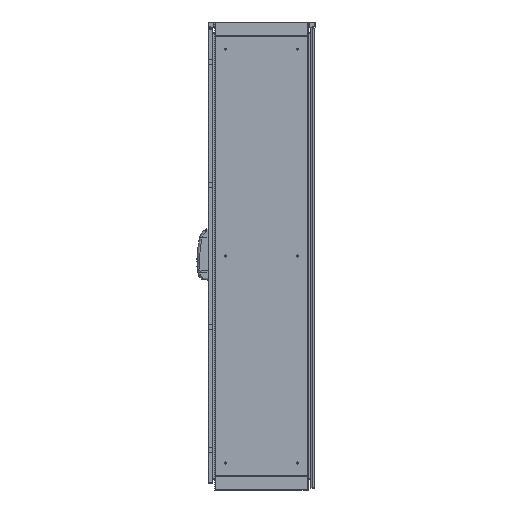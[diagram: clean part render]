
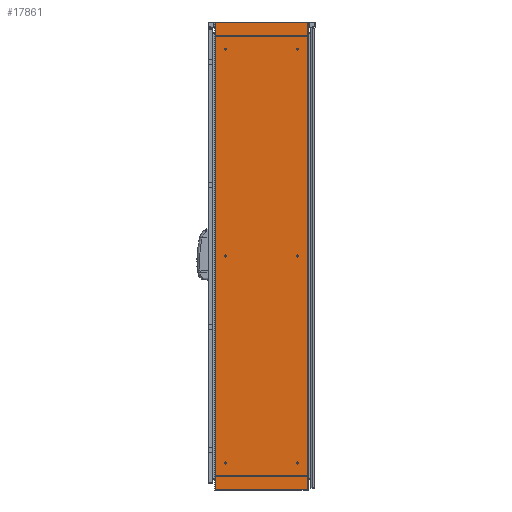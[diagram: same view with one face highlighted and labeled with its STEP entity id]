
A CAD part, left-side view. The second image highlights one B-rep face of the part: STEP entity #17861.
In plain terms, the highlighted planar face has unit normal (-1, 0, 0).
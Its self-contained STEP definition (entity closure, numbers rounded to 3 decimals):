
#114 = ORIENTED_EDGE ( 'NONE', *, *, #430, .T. ) ;
#430 = EDGE_CURVE ( 'NONE', #48633, #16055, #71786, .T. ) ;
#1839 = EDGE_LOOP ( 'NONE', ( #114, #45709, #64194, #9641 ) ) ;
#2449 = CARTESIAN_POINT ( 'NONE',  ( -500., -179.43, 1809. ) ) ;
#5645 = DIRECTION ( 'NONE',  ( 0., 0., -1. ) ) ;
#8873 = CARTESIAN_POINT ( 'NONE',  ( -500., 179.43, 1809. ) ) ;
#9641 = ORIENTED_EDGE ( 'NONE', *, *, #69474, .T. ) ;
#15816 = DIRECTION ( 'NONE',  ( 0., -1., 0. ) ) ;
#15844 = EDGE_CURVE ( 'NONE', #54672, #64314, #58813, .T. ) ;
#16055 = VERTEX_POINT ( 'NONE', #43432 ) ;
#17602 = VECTOR ( 'NONE', #21371, 1000. ) ;
#17861 = ADVANCED_FACE ( 'NONE', ( #66513 ), #67295, .F. ) ;
#21371 = DIRECTION ( 'NONE',  ( 0., 0., -1. ) ) ;
#22137 = DIRECTION ( 'NONE',  ( 0., -1., 0. ) ) ;
#24888 = EDGE_CURVE ( 'NONE', #16055, #64314, #70934, .T. ) ;
#32431 = CARTESIAN_POINT ( 'NONE',  ( -500., 179.43, 1809. ) ) ;
#43432 = CARTESIAN_POINT ( 'NONE',  ( -500., -179.43, 0. ) ) ;
#45166 = DIRECTION ( 'NONE',  ( 0., 0., 1. ) ) ;
#45709 = ORIENTED_EDGE ( 'NONE', *, *, #24888, .T. ) ;
#48633 = VERTEX_POINT ( 'NONE', #57860 ) ;
#51431 = VECTOR ( 'NONE', #15816, 1000. ) ;
#54672 = VERTEX_POINT ( 'NONE', #32431 ) ;
#55614 = VECTOR ( 'NONE', #45166, 1000. ) ;
#57860 = CARTESIAN_POINT ( 'NONE',  ( -500., 179.43, 0. ) ) ;
#58102 = CARTESIAN_POINT ( 'NONE',  ( -500., -179.43, 1809. ) ) ;
#58813 = LINE ( 'NONE', #72074, #66548 ) ;
#60867 = DIRECTION ( 'NONE',  ( 1., 0., 0. ) ) ;
#64191 = CARTESIAN_POINT ( 'NONE',  ( -500., 183.5, 0. ) ) ;
#64194 = ORIENTED_EDGE ( 'NONE', *, *, #15844, .F. ) ;
#64314 = VERTEX_POINT ( 'NONE', #58102 ) ;
#66513 = FACE_OUTER_BOUND ( 'NONE', #1839, .T. ) ;
#66548 = VECTOR ( 'NONE', #22137, 1000. ) ;
#66883 = AXIS2_PLACEMENT_3D ( 'NONE', #79375, #60867, #5645 ) ;
#67295 = PLANE ( 'NONE',  #66883 ) ;
#69474 = EDGE_CURVE ( 'NONE', #54672, #48633, #76542, .T. ) ;
#70934 = LINE ( 'NONE', #2449, #55614 ) ;
#71786 = LINE ( 'NONE', #64191, #51431 ) ;
#72074 = CARTESIAN_POINT ( 'NONE',  ( -500., 183.5, 1809. ) ) ;
#76542 = LINE ( 'NONE', #8873, #17602 ) ;
#79375 = CARTESIAN_POINT ( 'NONE',  ( -500., 183.5, 1809. ) ) ;
